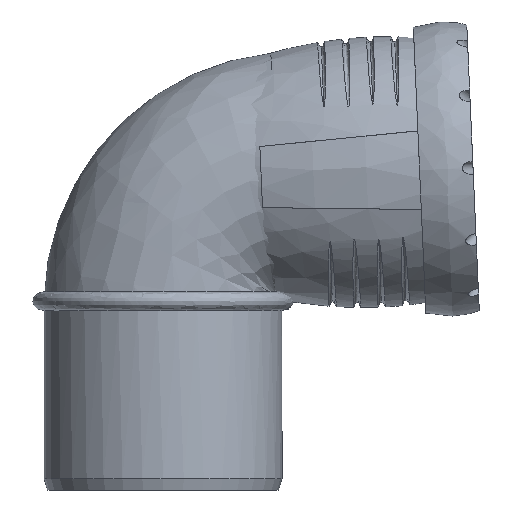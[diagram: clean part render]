
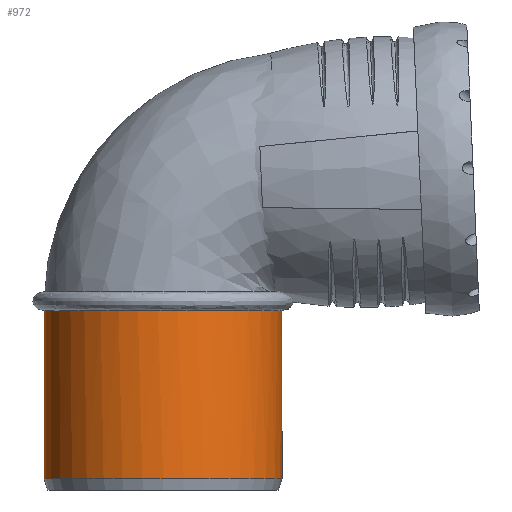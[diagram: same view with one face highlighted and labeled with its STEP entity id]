
A CAD part, front view. The second image highlights one B-rep face of the part: STEP entity #972.
In plain terms, the highlighted cylindrical face has radius 37.6 mm (diameter 75.2 mm), a full revolution.
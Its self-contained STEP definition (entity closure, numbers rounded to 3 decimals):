
#27=CYLINDRICAL_SURFACE('',#1048,37.6);
#84=FACE_BOUND('',#244,.T.);
#188=FACE_OUTER_BOUND('',#243,.T.);
#243=EDGE_LOOP('',(#670,#671,#672,#673));
#244=EDGE_LOOP('',(#674));
#314=CIRCLE('',#1028,37.6);
#315=CIRCLE('',#1029,37.6);
#320=CIRCLE('',#1041,37.6);
#321=CIRCLE('',#1042,37.6);
#325=CIRCLE('',#1049,37.6);
#369=VERTEX_POINT('',#1609);
#371=VERTEX_POINT('',#1631);
#372=VERTEX_POINT('',#1633);
#383=VERTEX_POINT('',#1751);
#385=VERTEX_POINT('',#1761);
#475=EDGE_CURVE('',#371,#369,#314,.T.);
#476=EDGE_CURVE('',#372,#371,#315,.T.);
#494=EDGE_CURVE('',#383,#372,#320,.T.);
#495=EDGE_CURVE('',#369,#383,#321,.T.);
#499=EDGE_CURVE('',#385,#385,#325,.T.);
#670=ORIENTED_EDGE('',*,*,#475,.T.);
#671=ORIENTED_EDGE('',*,*,#495,.T.);
#672=ORIENTED_EDGE('',*,*,#494,.T.);
#673=ORIENTED_EDGE('',*,*,#476,.T.);
#674=ORIENTED_EDGE('',*,*,#499,.F.);
#972=ADVANCED_FACE('',(#188,#84),#27,.T.);
#1028=AXIS2_PLACEMENT_3D('',#1632,#1132,#1133);
#1029=AXIS2_PLACEMENT_3D('',#1634,#1134,#1135);
#1041=AXIS2_PLACEMENT_3D('',#1752,#1158,#1159);
#1042=AXIS2_PLACEMENT_3D('',#1753,#1160,#1161);
#1048=AXIS2_PLACEMENT_3D('',#1760,#1172,#1173);
#1049=AXIS2_PLACEMENT_3D('',#1762,#1174,#1175);
#1132=DIRECTION('center_axis',(0.,0.,-1.));
#1133=DIRECTION('ref_axis',(1.,0.,0.));
#1134=DIRECTION('center_axis',(0.,0.,-1.));
#1135=DIRECTION('ref_axis',(1.,0.,0.));
#1158=DIRECTION('center_axis',(0.,0.,-1.));
#1159=DIRECTION('ref_axis',(1.,0.,0.));
#1160=DIRECTION('center_axis',(0.,0.,-1.));
#1161=DIRECTION('ref_axis',(1.,0.,0.));
#1172=DIRECTION('center_axis',(0.,0.,-1.));
#1173=DIRECTION('ref_axis',(0.,1.,0.));
#1174=DIRECTION('center_axis',(0.,0.,-1.));
#1175=DIRECTION('ref_axis',(1.,0.,0.));
#1609=CARTESIAN_POINT('',(-1.642,-37.564,56.7));
#1631=CARTESIAN_POINT('',(0.,37.6,56.7));
#1632=CARTESIAN_POINT('Origin',(0.,0.,56.7));
#1633=CARTESIAN_POINT('',(-1.642,37.564,56.7));
#1634=CARTESIAN_POINT('Origin',(0.,0.,56.7));
#1751=CARTESIAN_POINT('',(-37.6,0.,56.7));
#1752=CARTESIAN_POINT('Origin',(0.,0.,56.7));
#1753=CARTESIAN_POINT('Origin',(0.,0.,56.7));
#1760=CARTESIAN_POINT('Origin',(0.,0.,30.1));
#1761=CARTESIAN_POINT('',(0.,37.6,3.5));
#1762=CARTESIAN_POINT('Origin',(0.,0.,3.5));
